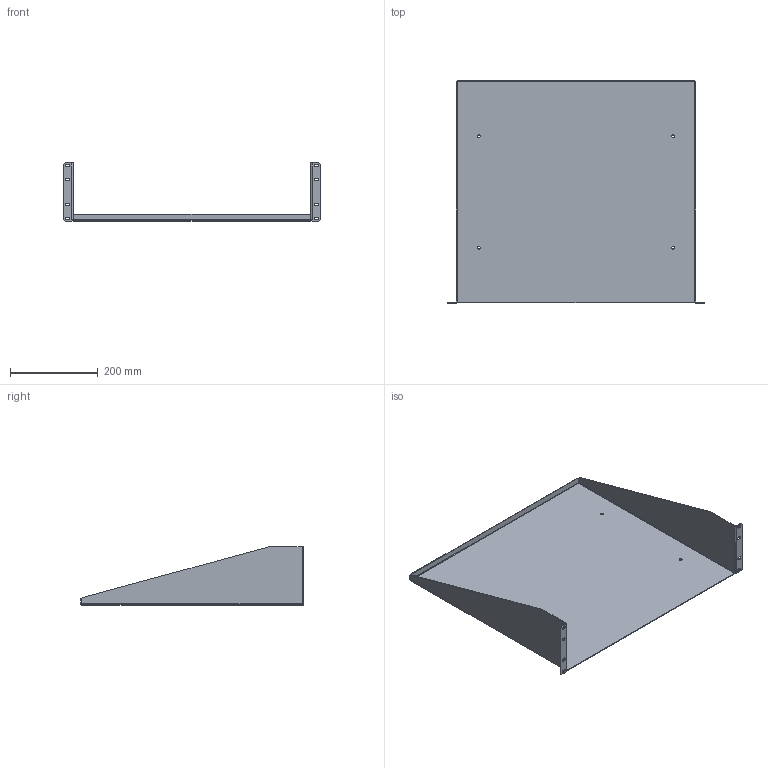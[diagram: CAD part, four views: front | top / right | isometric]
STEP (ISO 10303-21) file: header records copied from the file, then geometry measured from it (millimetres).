
FILE_DESCRIPTION( ( 'Unknown' ), '1' );
FILE_NAME( 'Q:/ACCESSORIES/SHELVES/RK _ RMA/WEB DRAWINGS/STEP/RASU230520.stp', 'Unknown', ( 'Unknown' ), ( 'Unknown' ), 'PSStep 10.1', 'Unknown', ' ' );
FILE_SCHEMA( ( 'AUTOMOTIVE_DESIGN { 1 0 10303 214 1 1 1 1 }' ) );
Length unit declared in the file: millimetre
Products named in the file (1): 1
Bounding box: 584.35 x 508 x 132.54 mm (x, y, z)
Volume: 676462.8 mm3; surface area: 744962.4 mm2
Topology: 1 solids, 1 shells, 100 faces, 274 edges, 176 vertices
Faces by surface type: plane 56, cylinder 40, bspline 4
Full cylindrical faces by diameter (mm): 6.35 x4
Entity records: 3445 total; most frequent: CARTESIAN_POINT 843, ORIENTED_EDGE 540, DIRECTION 524, EDGE_CURVE 270, AXIS2_PLACEMENT_3D 177, VERTEX_POINT 176, LINE 170, VECTOR 170
